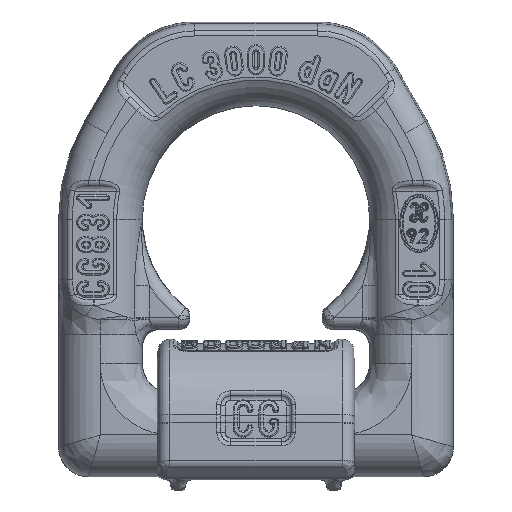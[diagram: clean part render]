
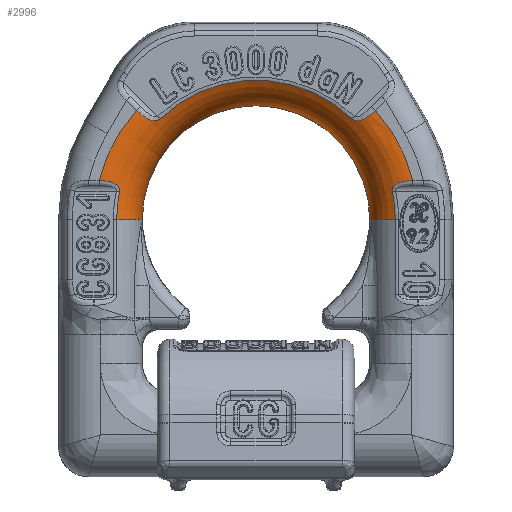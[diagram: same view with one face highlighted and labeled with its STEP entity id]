
A CAD part, front view. The second image highlights one B-rep face of the part: STEP entity #2996.
In plain terms, the highlighted toroidal (fillet/blend) face has major radius 27.02 mm and minor radius 8 mm.
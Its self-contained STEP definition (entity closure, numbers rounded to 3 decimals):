
#748=TOROIDAL_SURFACE('',#26565,27.02,8.);
#1366=FACE_OUTER_BOUND('',#7209,.T.);
#2996=ADVANCED_FACE('',(#1366),#748,.T.);
#5094=CIRCLE('',#26553,27.02);
#5096=CIRCLE('',#26556,27.02);
#5098=CIRCLE('',#26559,23.255);
#5099=CIRCLE('',#26560,23.255);
#5100=CIRCLE('',#26561,8.);
#5101=CIRCLE('',#26562,19.039);
#5102=CIRCLE('',#26563,8.);
#5103=CIRCLE('',#26564,23.255);
#6197=B_SPLINE_CURVE_WITH_KNOTS('',3,(#37168,#37169,#37170,#37171,#37172,
#37173,#37174,#37175),.UNSPECIFIED.,.F.,.F.,(4,2,2,4),(0.,0.25,
0.5,1.),.UNSPECIFIED.);
#6198=B_SPLINE_CURVE_WITH_KNOTS('',3,(#37176,#37177,#37178,#37179,#37180,
#37181,#37182,#37183,#37184,#37185,#37186,#37187,#37188,#37189,#37190,#37191,
#37192,#37193,#37194,#37195,#37196,#37197),.UNSPECIFIED.,.F.,.F.,(4,3,3,
3,3,3,3,4),(0.,0.302,0.563,0.719,0.811,
0.908,0.979,1.),.UNSPECIFIED.);
#6199=B_SPLINE_CURVE_WITH_KNOTS('',3,(#37209,#37210,#37211,#37212,#37213,
#37214,#37215,#37216),.UNSPECIFIED.,.F.,.F.,(4,2,2,4),(0.,0.25,0.5,1.),.UNSPECIFIED.);
#6200=B_SPLINE_CURVE_WITH_KNOTS('',3,(#37217,#37218,#37219,#37220,#37221,
#37222,#37223,#37224,#37225,#37226,#37227,#37228,#37229,#37230,#37231,#37232,
#37233,#37234,#37235,#37236,#37237,#37238),.UNSPECIFIED.,.F.,.F.,(4,3,3,
3,3,3,3,4),(0.,0.093,0.452,0.677,0.82,
0.912,0.985,1.),.UNSPECIFIED.);
#7209=EDGE_LOOP('',(#12379,#12380,#12381,#12382,#12383,#12384,#12385,#12386,
#12387,#12388,#12389,#12390));
#12379=ORIENTED_EDGE('',*,*,#22371,.T.);
#12380=ORIENTED_EDGE('',*,*,#22372,.T.);
#12381=ORIENTED_EDGE('',*,*,#22361,.F.);
#12382=ORIENTED_EDGE('',*,*,#22373,.T.);
#12383=ORIENTED_EDGE('',*,*,#22374,.T.);
#12384=ORIENTED_EDGE('',*,*,#22375,.T.);
#12385=ORIENTED_EDGE('',*,*,#22376,.F.);
#12386=ORIENTED_EDGE('',*,*,#22377,.F.);
#12387=ORIENTED_EDGE('',*,*,#22378,.T.);
#12388=ORIENTED_EDGE('',*,*,#22379,.T.);
#12389=ORIENTED_EDGE('',*,*,#22368,.F.);
#12390=ORIENTED_EDGE('',*,*,#22380,.T.);
#20075=VERTEX_POINT('',#37144);
#20076=VERTEX_POINT('',#37145);
#20082=VERTEX_POINT('',#37158);
#20083=VERTEX_POINT('',#37160);
#20085=VERTEX_POINT('',#37166);
#20086=VERTEX_POINT('',#37167);
#20087=VERTEX_POINT('',#37198);
#20088=VERTEX_POINT('',#37200);
#20089=VERTEX_POINT('',#37202);
#20090=VERTEX_POINT('',#37204);
#20091=VERTEX_POINT('',#37206);
#20092=VERTEX_POINT('',#37208);
#22361=EDGE_CURVE('',#20075,#20076,#5094,.T.);
#22368=EDGE_CURVE('',#20082,#20083,#5096,.T.);
#22371=EDGE_CURVE('',#20085,#20086,#5098,.T.);
#22372=EDGE_CURVE('',#20086,#20076,#6197,.T.);
#22373=EDGE_CURVE('',#20075,#20087,#6198,.T.);
#22374=EDGE_CURVE('',#20087,#20088,#5099,.T.);
#22375=EDGE_CURVE('',#20088,#20089,#5100,.T.);
#22376=EDGE_CURVE('',#20090,#20089,#5101,.T.);
#22377=EDGE_CURVE('',#20091,#20090,#5102,.T.);
#22378=EDGE_CURVE('',#20091,#20092,#5103,.T.);
#22379=EDGE_CURVE('',#20092,#20083,#6199,.T.);
#22380=EDGE_CURVE('',#20082,#20085,#6200,.T.);
#26553=AXIS2_PLACEMENT_3D('',#37143,#29578,#29579);
#26556=AXIS2_PLACEMENT_3D('',#37159,#29589,#29590);
#26559=AXIS2_PLACEMENT_3D('',#37165,#29596,#29597);
#26560=AXIS2_PLACEMENT_3D('',#37199,#29598,#29599);
#26561=AXIS2_PLACEMENT_3D('',#37201,#29600,#29601);
#26562=AXIS2_PLACEMENT_3D('',#37203,#29602,#29603);
#26563=AXIS2_PLACEMENT_3D('',#37205,#29604,#29605);
#26564=AXIS2_PLACEMENT_3D('',#37207,#29606,#29607);
#26565=AXIS2_PLACEMENT_3D('',#37239,#29608,#29609);
#29578=DIRECTION('',(0.,1.,0.));
#29579=DIRECTION('',(1.,0.,0.));
#29589=DIRECTION('',(0.,1.,0.));
#29590=DIRECTION('',(1.,0.,0.));
#29596=DIRECTION('',(0.,-1.,0.));
#29597=DIRECTION('',(-1.,0.,0.));
#29598=DIRECTION('',(0.,-1.,0.));
#29599=DIRECTION('',(-1.,0.,0.));
#29600=DIRECTION('',(0.,0.,1.));
#29601=DIRECTION('',(-1.,0.,0.));
#29602=DIRECTION('',(0.,-1.,0.));
#29603=DIRECTION('',(-1.,0.,0.));
#29604=DIRECTION('',(0.,0.,-1.));
#29605=DIRECTION('',(1.,0.,0.));
#29606=DIRECTION('',(0.,-1.,0.));
#29607=DIRECTION('',(-1.,0.,0.));
#29608=DIRECTION('',(0.,-1.,0.));
#29609=DIRECTION('',(1.,0.,0.));
#37143=CARTESIAN_POINT('',(0.,-8.,36.));
#37144=CARTESIAN_POINT('',(-26.218,-8.,42.532));
#37145=CARTESIAN_POINT('',(-19.953,-8.,54.219));
#37158=CARTESIAN_POINT('',(19.953,-8.,54.219));
#37159=CARTESIAN_POINT('',(0.,-8.,36.));
#37160=CARTESIAN_POINT('',(26.218,-8.,42.532));
#37165=CARTESIAN_POINT('',(0.,-7.059,36.));
#37166=CARTESIAN_POINT('',(16.04,-7.059,52.838));
#37167=CARTESIAN_POINT('',(-16.04,-7.059,52.838));
#37168=CARTESIAN_POINT('',(-16.04,-7.059,52.838));
#37169=CARTESIAN_POINT('',(-16.325,-7.059,52.566));
#37170=CARTESIAN_POINT('',(-16.727,-7.183,52.486));
#37171=CARTESIAN_POINT('',(-17.457,-7.437,52.551));
#37172=CARTESIAN_POINT('',(-17.806,-7.568,52.68));
#37173=CARTESIAN_POINT('',(-18.8,-7.884,53.188));
#37174=CARTESIAN_POINT('',(-19.398,-8.,53.676));
#37175=CARTESIAN_POINT('',(-19.953,-8.,54.219));
#37176=CARTESIAN_POINT('',(-26.218,-8.,42.532));
#37177=CARTESIAN_POINT('',(-25.764,-8.,42.516));
#37178=CARTESIAN_POINT('',(-25.307,-7.962,42.472));
#37179=CARTESIAN_POINT('',(-24.867,-7.886,42.39));
#37180=CARTESIAN_POINT('',(-24.488,-7.821,42.32));
#37181=CARTESIAN_POINT('',(-24.114,-7.725,42.222));
#37182=CARTESIAN_POINT('',(-23.774,-7.605,42.07));
#37183=CARTESIAN_POINT('',(-23.57,-7.533,41.979));
#37184=CARTESIAN_POINT('',(-23.376,-7.451,41.867));
#37185=CARTESIAN_POINT('',(-23.209,-7.369,41.725));
#37186=CARTESIAN_POINT('',(-23.11,-7.32,41.64));
#37187=CARTESIAN_POINT('',(-23.02,-7.269,41.543));
#37188=CARTESIAN_POINT('',(-22.948,-7.224,41.433));
#37189=CARTESIAN_POINT('',(-22.871,-7.176,41.317));
#37190=CARTESIAN_POINT('',(-22.813,-7.132,41.184));
#37191=CARTESIAN_POINT('',(-22.786,-7.102,41.043));
#37192=CARTESIAN_POINT('',(-22.766,-7.081,40.941));
#37193=CARTESIAN_POINT('',(-22.762,-7.066,40.832));
#37194=CARTESIAN_POINT('',(-22.774,-7.061,40.727));
#37195=CARTESIAN_POINT('',(-22.778,-7.06,40.695));
#37196=CARTESIAN_POINT('',(-22.783,-7.059,40.663));
#37197=CARTESIAN_POINT('',(-22.789,-7.059,40.631));
#37198=CARTESIAN_POINT('',(-22.789,-7.059,40.631));
#37199=CARTESIAN_POINT('',(0.,-7.059,36.));
#37200=CARTESIAN_POINT('',(-23.255,-7.059,36.));
#37201=CARTESIAN_POINT('',(-27.02,0.,36.));
#37202=CARTESIAN_POINT('',(-19.039,-0.558,36.));
#37203=CARTESIAN_POINT('',(0.,-0.558,36.));
#37204=CARTESIAN_POINT('',(19.039,-0.558,36.));
#37205=CARTESIAN_POINT('',(27.02,0.,36.));
#37206=CARTESIAN_POINT('',(23.255,-7.059,36.));
#37207=CARTESIAN_POINT('',(0.,-7.059,36.));
#37208=CARTESIAN_POINT('',(22.789,-7.059,40.631));
#37209=CARTESIAN_POINT('',(22.789,-7.059,40.631));
#37210=CARTESIAN_POINT('',(22.713,-7.059,41.007));
#37211=CARTESIAN_POINT('',(22.863,-7.186,41.383));
#37212=CARTESIAN_POINT('',(23.365,-7.454,41.89));
#37213=CARTESIAN_POINT('',(23.689,-7.585,42.05));
#37214=CARTESIAN_POINT('',(24.715,-7.897,42.416));
#37215=CARTESIAN_POINT('',(25.462,-8.,42.505));
#37216=CARTESIAN_POINT('',(26.218,-8.,42.532));
#37217=CARTESIAN_POINT('',(19.953,-8.,54.219));
#37218=CARTESIAN_POINT('',(19.85,-8.,54.117));
#37219=CARTESIAN_POINT('',(19.744,-7.996,54.018));
#37220=CARTESIAN_POINT('',(19.637,-7.988,53.921));
#37221=CARTESIAN_POINT('',(19.228,-7.958,53.554));
#37222=CARTESIAN_POINT('',(18.788,-7.869,53.214));
#37223=CARTESIAN_POINT('',(18.325,-7.731,52.951));
#37224=CARTESIAN_POINT('',(18.033,-7.644,52.785));
#37225=CARTESIAN_POINT('',(17.727,-7.536,52.647));
#37226=CARTESIAN_POINT('',(17.409,-7.422,52.571));
#37227=CARTESIAN_POINT('',(17.206,-7.35,52.522));
#37228=CARTESIAN_POINT('',(16.993,-7.273,52.498));
#37229=CARTESIAN_POINT('',(16.782,-7.207,52.518));
#37230=CARTESIAN_POINT('',(16.647,-7.165,52.53));
#37231=CARTESIAN_POINT('',(16.51,-7.127,52.561));
#37232=CARTESIAN_POINT('',(16.381,-7.1,52.616));
#37233=CARTESIAN_POINT('',(16.279,-7.078,52.659));
#37234=CARTESIAN_POINT('',(16.179,-7.064,52.718));
#37235=CARTESIAN_POINT('',(16.092,-7.06,52.791));
#37236=CARTESIAN_POINT('',(16.074,-7.059,52.806));
#37237=CARTESIAN_POINT('',(16.057,-7.059,52.821));
#37238=CARTESIAN_POINT('',(16.04,-7.059,52.838));
#37239=CARTESIAN_POINT('',(0.,0.,36.));
